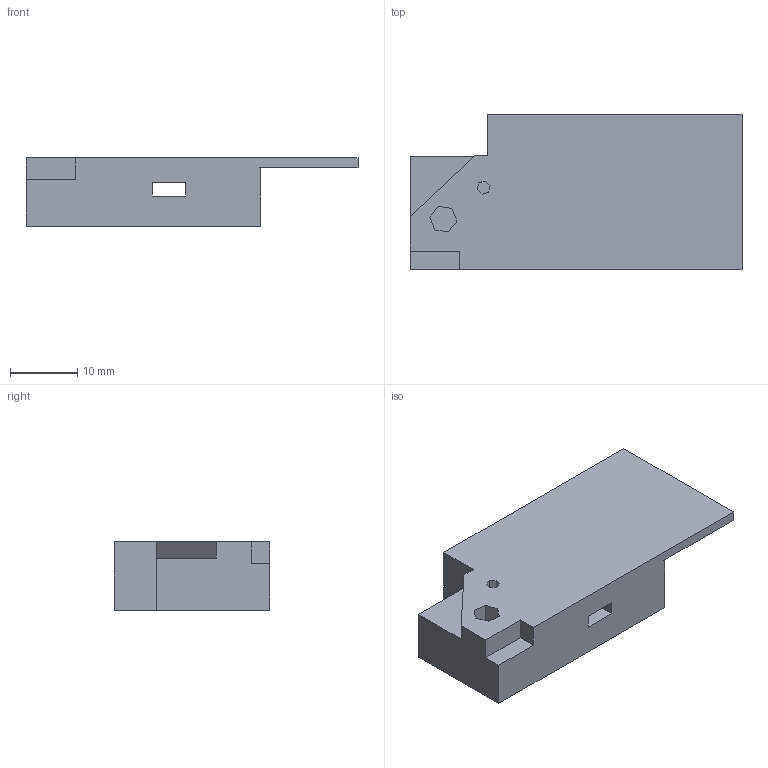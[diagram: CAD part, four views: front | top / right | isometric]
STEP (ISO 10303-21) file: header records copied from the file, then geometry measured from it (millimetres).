
FILE_DESCRIPTION(('Open CASCADE Model'),'2;1');
FILE_NAME('Open CASCADE Shape Model','2021-04-29T13:16:35',('Author'),( 'Open CASCADE'),'Open CASCADE STEP processor 7.4','Open CASCADE 7.4' ,'Unknown');
FILE_SCHEMA(('AUTOMOTIVE_DESIGN { 1 0 10303 214 1 1 1 1 }'));
Length unit declared in the file: millimetre
Products named in the file (1): Open CASCADE STEP translator 7.4 2089
Bounding box: 49.47 x 23.14 x 10.2 mm (x, y, z)
Volume: 5524.9 mm3; surface area: 3817.7 mm2
Topology: 1 solids, 1 shells, 38 faces, 102 edges, 68 vertices
Faces by surface type: plane 38
Entity records: 2486 total; most frequent: CARTESIAN_POINT 437, DIRECTION 360, LINE 282, VECTOR 282, ORIENTED_EDGE 204, PCURVE 204, DEFINITIONAL_REPRESENTATION 204, EDGE_CURVE 102
